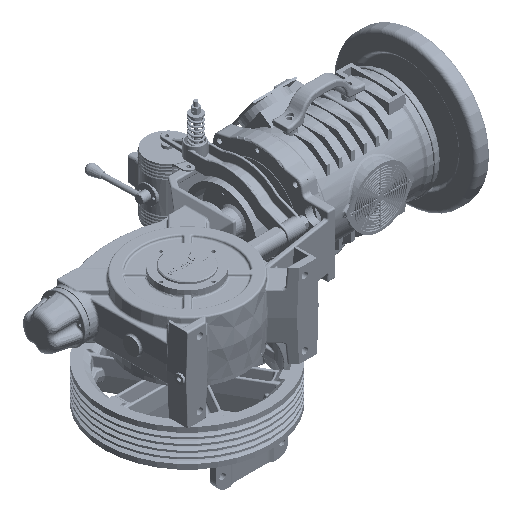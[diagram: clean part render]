
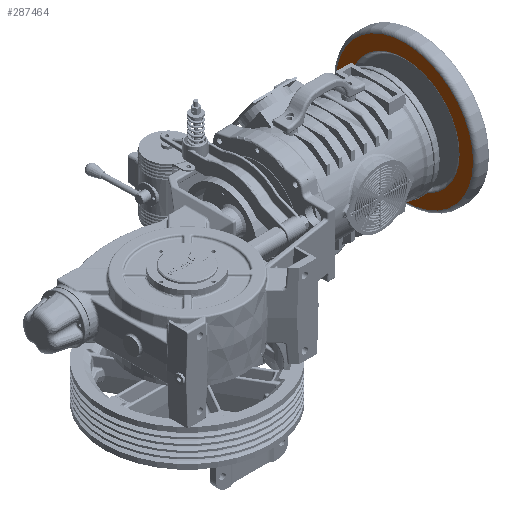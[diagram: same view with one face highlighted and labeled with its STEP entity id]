
A CAD part, isometric view. The second image highlights one B-rep face of the part: STEP entity #287464.
In plain terms, the highlighted planar face has unit normal (-1, 0, 0).
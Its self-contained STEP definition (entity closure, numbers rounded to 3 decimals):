
#1797 = CARTESIAN_POINT ( 'NONE',  ( 423.838, -204.966, -99.97 ) ) ;
#9260 = EDGE_CURVE ( 'NONE', #25673, #141802, #182473, .T. ) ;
#13615 = CIRCLE ( 'NONE', #234816, 190. ) ;
#16991 = PLANE ( 'NONE',  #246669 ) ;
#25673 = VERTEX_POINT ( 'NONE', #193270 ) ;
#30135 = DIRECTION ( 'NONE',  ( 1., 0., 0. ) ) ;
#40491 = DIRECTION ( 'NONE',  ( 0., -0.757, -0.654 ) ) ;
#47572 = DIRECTION ( 'NONE',  ( 0., -0.757, -0.654 ) ) ;
#50982 = EDGE_CURVE ( 'NONE', #141802, #25673, #222900, .T. ) ;
#52110 = CIRCLE ( 'NONE', #220510, 190. ) ;
#75978 = DIRECTION ( 'NONE',  ( 0., -0.757, -0.654 ) ) ;
#84700 = CARTESIAN_POINT ( 'NONE',  ( 423.838, 10.677, -115.674 ) ) ;
#98355 = EDGE_CURVE ( 'NONE', #159768, #214667, #13615, .T. ) ;
#103149 = CARTESIAN_POINT ( 'NONE',  ( 423.838, -89.293, 0. ) ) ;
#110311 = ORIENTED_EDGE ( 'NONE', *, *, #98355, .F. ) ;
#125189 = ORIENTED_EDGE ( 'NONE', *, *, #50982, .T. ) ;
#141802 = VERTEX_POINT ( 'NONE', #1797 ) ;
#154254 = EDGE_LOOP ( 'NONE', ( #125189, #256314 ) ) ;
#159768 = VERTEX_POINT ( 'NONE', #254960 ) ;
#169977 = EDGE_LOOP ( 'NONE', ( #110311, #206246 ) ) ;
#175171 = FACE_OUTER_BOUND ( 'NONE', #169977, .T. ) ;
#182074 = CARTESIAN_POINT ( 'NONE',  ( 423.838, -89.293, 0. ) ) ;
#182473 = CIRCLE ( 'NONE', #264432, 152.887 ) ;
#183533 = DIRECTION ( 'NONE',  ( 1., 0., 0. ) ) ;
#191307 = DIRECTION ( 'NONE',  ( 0., -0.757, -0.654 ) ) ;
#193270 = CARTESIAN_POINT ( 'NONE',  ( 423.838, 26.381, 99.97 ) ) ;
#195042 = DIRECTION ( 'NONE',  ( 1., 0., 0. ) ) ;
#203560 = AXIS2_PLACEMENT_3D ( 'NONE', #297750, #278082, #47572 ) ;
#205769 = EDGE_CURVE ( 'NONE', #214667, #159768, #52110, .T. ) ;
#206246 = ORIENTED_EDGE ( 'NONE', *, *, #205769, .F. ) ;
#209611 = CARTESIAN_POINT ( 'NONE',  ( 423.838, 54.461, 124.237 ) ) ;
#214667 = VERTEX_POINT ( 'NONE', #209611 ) ;
#220510 = AXIS2_PLACEMENT_3D ( 'NONE', #254624, #30135, #191307 ) ;
#222900 = CIRCLE ( 'NONE', #203560, 152.887 ) ;
#234816 = AXIS2_PLACEMENT_3D ( 'NONE', #182074, #183533, #40491 ) ;
#241527 = FACE_BOUND ( 'NONE', #154254, .T. ) ;
#246669 = AXIS2_PLACEMENT_3D ( 'NONE', #84700, #267053, #268529 ) ;
#254624 = CARTESIAN_POINT ( 'NONE',  ( 423.838, -89.293, 0. ) ) ;
#254960 = CARTESIAN_POINT ( 'NONE',  ( 423.838, -233.046, -124.237 ) ) ;
#256314 = ORIENTED_EDGE ( 'NONE', *, *, #9260, .T. ) ;
#264432 = AXIS2_PLACEMENT_3D ( 'NONE', #103149, #195042, #75978 ) ;
#267053 = DIRECTION ( 'NONE',  ( -1., 0., 0. ) ) ;
#268529 = DIRECTION ( 'NONE',  ( 0., 0.757, 0.654 ) ) ;
#278082 = DIRECTION ( 'NONE',  ( 1., 0., 0. ) ) ;
#287464 = ADVANCED_FACE ( 'NONE', ( #241527, #175171 ), #16991, .T. ) ;
#297750 = CARTESIAN_POINT ( 'NONE',  ( 423.838, -89.293, 0. ) ) ;
